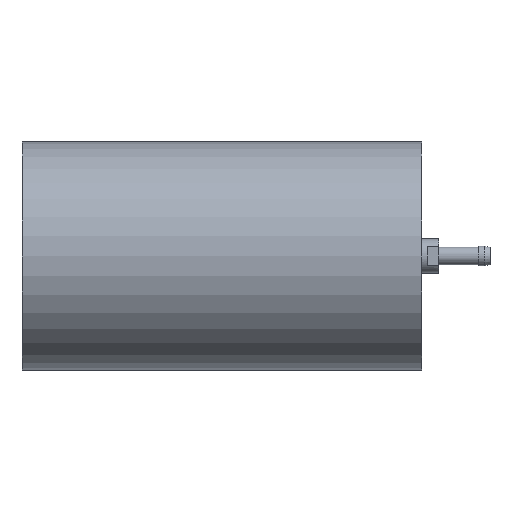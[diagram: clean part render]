
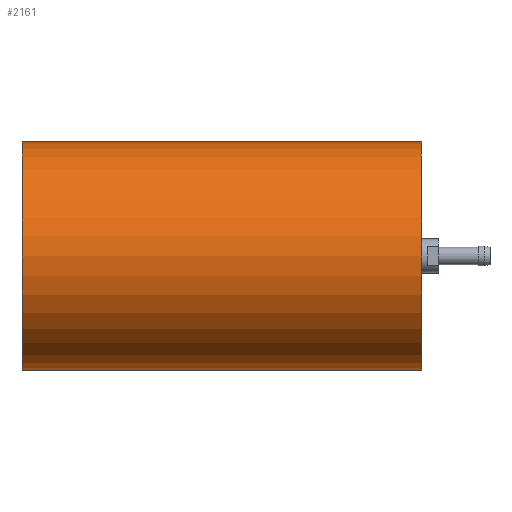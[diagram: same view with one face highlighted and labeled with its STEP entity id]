
A CAD part, front view. The second image highlights one B-rep face of the part: STEP entity #2161.
In plain terms, the highlighted cylindrical face has radius 40 mm (diameter 80 mm), a full revolution.
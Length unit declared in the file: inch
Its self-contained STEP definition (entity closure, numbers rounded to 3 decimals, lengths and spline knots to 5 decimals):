
#529=FACE_BOUND($,#864,.T.);
#665=FACE_OUTER_BOUND($,#863,.T.);
#863=EDGE_LOOP($,(#1793));
#864=EDGE_LOOP($,(#1794));
#1067=CIRCLE($,#2398,1.5748);
#1068=CIRCLE($,#2400,1.5748);
#1223=VERTEX_POINT($,#3519);
#1224=VERTEX_POINT($,#3522);
#1441=EDGE_CURVE($,#1223,#1223,#1067,.T.);
#1442=EDGE_CURVE($,#1224,#1224,#1068,.T.);
#1793=ORIENTED_EDGE($,*,*,#1442,.T.);
#1794=ORIENTED_EDGE($,*,*,#1441,.F.);
#2060=CYLINDRICAL_SURFACE($,#2399,1.5748);
#2161=ADVANCED_FACE($,(#665,#529),#2060,.T.);
#2398=AXIS2_PLACEMENT_3D($,#3520,#2857,#2858);
#2399=AXIS2_PLACEMENT_3D($,#3521,#2859,#2860);
#2400=AXIS2_PLACEMENT_3D($,#3523,#2861,#2862);
#2857=DIRECTION('center_axis',(1.,0.,0.));
#2858=DIRECTION('ref_axis',(0.,1.,0.));
#2859=DIRECTION('center_axis',(1.,0.,0.));
#2860=DIRECTION('ref_axis',(0.,1.,0.));
#2861=DIRECTION('center_axis',(1.,0.,0.));
#2862=DIRECTION('ref_axis',(0.,1.,0.));
#3519=CARTESIAN_POINT('',(0.06878,1.10995,0.));
#3520=CARTESIAN_POINT('Origin',(0.06878,-0.46486,0.));
#3521=CARTESIAN_POINT('Origin',(-0.04933,-0.46486,
0.));
#3522=CARTESIAN_POINT('',(-5.44303,1.10995,0.));
#3523=CARTESIAN_POINT('Origin',(-5.44303,-0.46486,0.));
